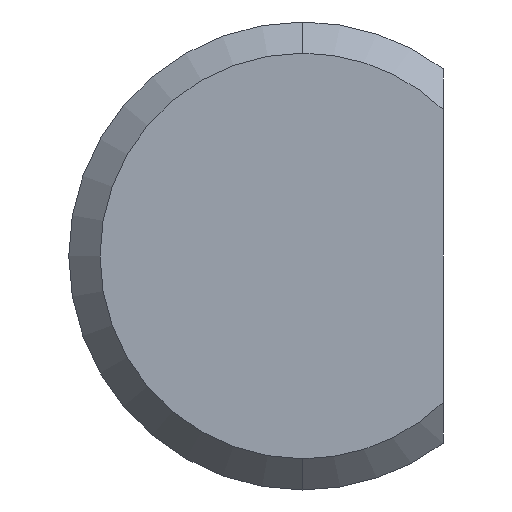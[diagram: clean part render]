
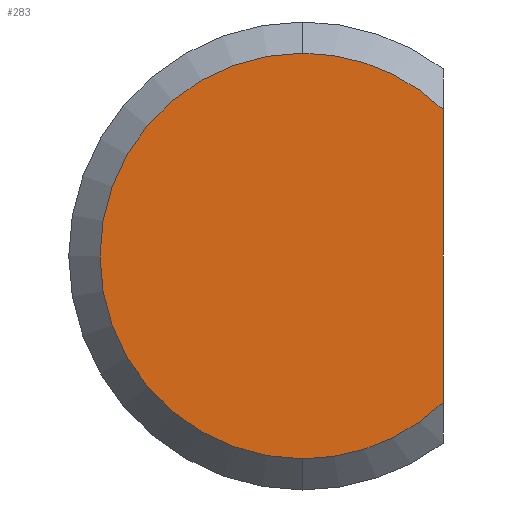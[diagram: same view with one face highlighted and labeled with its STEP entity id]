
A CAD part, front view. The second image highlights one B-rep face of the part: STEP entity #283.
In plain terms, the highlighted planar face has unit normal (0, -1, 0).
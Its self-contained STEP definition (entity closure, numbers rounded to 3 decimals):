
#20 = DIRECTION ( 'NONE',  ( 0., -1., 0. ) ) ;
#68 = FACE_OUTER_BOUND ( 'NONE', #173, .T. ) ;
#81 = EDGE_CURVE ( 'NONE', #207, #425, #469, .T. ) ;
#108 = ORIENTED_EDGE ( 'NONE', *, *, #516, .T. ) ;
#113 = VECTOR ( 'NONE', #218, 1000. ) ;
#123 = CARTESIAN_POINT ( 'NONE',  ( 0.9, 0., -1.2 ) ) ;
#152 = AXIS2_PLACEMENT_3D ( 'NONE', #435, #20, #443 ) ;
#153 = AXIS2_PLACEMENT_3D ( 'NONE', #514, #247, #209 ) ;
#160 = ORIENTED_EDGE ( 'NONE', *, *, #526, .T. ) ;
#173 = EDGE_LOOP ( 'NONE', ( #257, #540, #108, #160 ) ) ;
#207 = VERTEX_POINT ( 'NONE', #345 ) ;
#209 = DIRECTION ( 'NONE',  ( 0., 0., -1. ) ) ;
#210 = VERTEX_POINT ( 'NONE', #391 ) ;
#218 = DIRECTION ( 'NONE',  ( 0., 0., 1. ) ) ;
#247 = DIRECTION ( 'NONE',  ( 0., -1., 0. ) ) ;
#257 = ORIENTED_EDGE ( 'NONE', *, *, #81, .T. ) ;
#270 = DIRECTION ( 'NONE',  ( 0., 0., -1. ) ) ;
#283 = ADVANCED_FACE ( 'NONE', ( #68 ), #395, .T. ) ;
#345 = CARTESIAN_POINT ( 'NONE',  ( 0.9, 0., 0.938 ) ) ;
#365 = CARTESIAN_POINT ( 'NONE',  ( 0.9, 0., -0.938 ) ) ;
#371 = CIRCLE ( 'NONE', #153, 1.3 ) ;
#376 = VERTEX_POINT ( 'NONE', #365 ) ;
#388 = LINE ( 'NONE', #123, #113 ) ;
#391 = CARTESIAN_POINT ( 'NONE',  ( 0., 0., -1.3 ) ) ;
#395 = PLANE ( 'NONE',  #152 ) ;
#411 = CARTESIAN_POINT ( 'NONE',  ( 0., 0., 1.3 ) ) ;
#425 = VERTEX_POINT ( 'NONE', #411 ) ;
#435 = CARTESIAN_POINT ( 'NONE',  ( 0., 0., 0. ) ) ;
#436 = DIRECTION ( 'NONE',  ( 0., 0., -1. ) ) ;
#443 = DIRECTION ( 'NONE',  ( 0., 0., -1. ) ) ;
#460 = DIRECTION ( 'NONE',  ( 0., -1., 0. ) ) ;
#469 = CIRCLE ( 'NONE', #541, 1.3 ) ;
#489 = AXIS2_PLACEMENT_3D ( 'NONE', #497, #576, #436 ) ;
#497 = CARTESIAN_POINT ( 'NONE',  ( 0., 0., 0. ) ) ;
#514 = CARTESIAN_POINT ( 'NONE',  ( 0., 0., 0. ) ) ;
#516 = EDGE_CURVE ( 'NONE', #210, #376, #543, .T. ) ;
#526 = EDGE_CURVE ( 'NONE', #376, #207, #388, .T. ) ;
#540 = ORIENTED_EDGE ( 'NONE', *, *, #598, .T. ) ;
#541 = AXIS2_PLACEMENT_3D ( 'NONE', #592, #460, #270 ) ;
#543 = CIRCLE ( 'NONE', #489, 1.3 ) ;
#576 = DIRECTION ( 'NONE',  ( 0., -1., 0. ) ) ;
#592 = CARTESIAN_POINT ( 'NONE',  ( 0., 0., 0. ) ) ;
#598 = EDGE_CURVE ( 'NONE', #425, #210, #371, .T. ) ;
